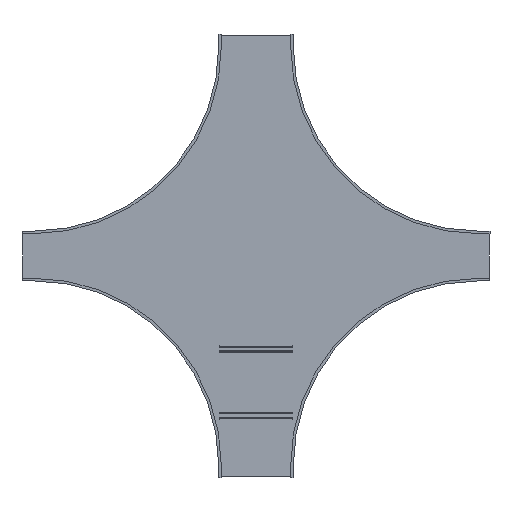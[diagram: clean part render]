
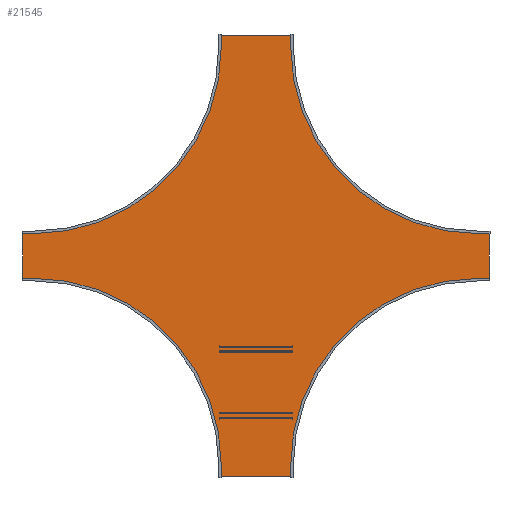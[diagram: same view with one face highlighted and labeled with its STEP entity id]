
A CAD part, front view. The second image highlights one B-rep face of the part: STEP entity #21545.
In plain terms, the highlighted planar face has unit normal (0, -1, 0).
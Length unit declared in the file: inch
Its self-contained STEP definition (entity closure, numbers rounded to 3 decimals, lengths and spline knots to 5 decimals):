
#21242=DIRECTION('',(0.,0.,1.));
#21243=VECTOR('',#21242,11.875);
#21244=CARTESIAN_POINT('',(-56.875,0.,-5.9375));
#21245=LINE('',#21244,#21243);
#21246=DIRECTION('',(1.,0.,0.));
#21247=VECTOR('',#21246,2.785);
#21248=CARTESIAN_POINT('',(-56.875,0.,5.9375));
#21249=LINE('',#21248,#21247);
#21250=CARTESIAN_POINT('',(-54.09,0.,51.09));
#21251=DIRECTION('',(0.,-1.,0.));
#21252=DIRECTION('',(0.,0.,-1.));
#21253=AXIS2_PLACEMENT_3D('',#21250,#21251,#21252);
#21255=DIRECTION('',(0.,0.,1.));
#21256=VECTOR('',#21255,2.785);
#21257=CARTESIAN_POINT('',(-8.9375,0.,51.09));
#21258=LINE('',#21257,#21256);
#21259=DIRECTION('',(1.,0.,0.));
#21260=VECTOR('',#21259,17.875);
#21261=CARTESIAN_POINT('',(-8.9375,0.,53.875));
#21262=LINE('',#21261,#21260);
#21263=DIRECTION('',(0.,0.,-1.));
#21264=VECTOR('',#21263,2.785);
#21265=CARTESIAN_POINT('',(8.9375,0.,53.875));
#21266=LINE('',#21265,#21264);
#21267=CARTESIAN_POINT('',(54.09,0.,51.09));
#21268=DIRECTION('',(0.,-1.,0.));
#21269=DIRECTION('',(-1.,0.,0.));
#21270=AXIS2_PLACEMENT_3D('',#21267,#21268,#21269);
#21272=DIRECTION('',(1.,0.,0.));
#21273=VECTOR('',#21272,2.785);
#21274=CARTESIAN_POINT('',(54.09,0.,5.9375));
#21275=LINE('',#21274,#21273);
#21276=DIRECTION('',(0.,0.,-1.));
#21277=VECTOR('',#21276,11.875);
#21278=CARTESIAN_POINT('',(56.875,0.,5.9375));
#21279=LINE('',#21278,#21277);
#21280=DIRECTION('',(-1.,0.,0.));
#21281=VECTOR('',#21280,2.785);
#21282=CARTESIAN_POINT('',(56.875,0.,-5.9375));
#21283=LINE('',#21282,#21281);
#21284=CARTESIAN_POINT('',(54.09,0.,-51.09));
#21285=DIRECTION('',(0.,-1.,0.));
#21286=DIRECTION('',(0.,0.,1.));
#21287=AXIS2_PLACEMENT_3D('',#21284,#21285,#21286);
#21289=DIRECTION('',(0.,0.,-1.));
#21290=VECTOR('',#21289,2.785);
#21291=CARTESIAN_POINT('',(8.9375,0.,-51.09));
#21292=LINE('',#21291,#21290);
#21293=DIRECTION('',(-1.,0.,0.));
#21294=VECTOR('',#21293,17.875);
#21295=CARTESIAN_POINT('',(8.9375,0.,-53.875));
#21296=LINE('',#21295,#21294);
#21297=DIRECTION('',(0.,0.,1.));
#21298=VECTOR('',#21297,2.785);
#21299=CARTESIAN_POINT('',(-8.9375,0.,-53.875));
#21300=LINE('',#21299,#21298);
#21301=CARTESIAN_POINT('',(-54.09,0.,-51.09));
#21302=DIRECTION('',(0.,-1.,0.));
#21303=DIRECTION('',(1.,0.,0.));
#21304=AXIS2_PLACEMENT_3D('',#21301,#21302,#21303);
#21306=DIRECTION('',(-1.,0.,0.));
#21307=VECTOR('',#21306,2.785);
#21308=CARTESIAN_POINT('',(-54.09,0.,-5.9375));
#21309=LINE('',#21308,#21307);
#21442=CARTESIAN_POINT('',(-56.875,0.,-5.9375));
#21443=CARTESIAN_POINT('',(-56.875,0.,5.9375));
#21444=VERTEX_POINT('',#21442);
#21445=VERTEX_POINT('',#21443);
#21446=CARTESIAN_POINT('',(-54.09,0.,5.9375));
#21447=VERTEX_POINT('',#21446);
#21448=CARTESIAN_POINT('',(-8.9375,0.,51.09));
#21449=VERTEX_POINT('',#21448);
#21450=CARTESIAN_POINT('',(-8.9375,0.,53.875));
#21451=VERTEX_POINT('',#21450);
#21452=CARTESIAN_POINT('',(8.9375,0.,53.875));
#21453=VERTEX_POINT('',#21452);
#21454=CARTESIAN_POINT('',(8.9375,0.,51.09));
#21455=VERTEX_POINT('',#21454);
#21456=CARTESIAN_POINT('',(54.09,0.,5.9375));
#21457=VERTEX_POINT('',#21456);
#21458=CARTESIAN_POINT('',(56.875,0.,5.9375));
#21459=VERTEX_POINT('',#21458);
#21460=CARTESIAN_POINT('',(56.875,0.,-5.9375));
#21461=VERTEX_POINT('',#21460);
#21462=CARTESIAN_POINT('',(54.09,0.,-5.9375));
#21463=VERTEX_POINT('',#21462);
#21464=CARTESIAN_POINT('',(8.9375,0.,-51.09));
#21465=VERTEX_POINT('',#21464);
#21466=CARTESIAN_POINT('',(8.9375,0.,-53.875));
#21467=VERTEX_POINT('',#21466);
#21468=CARTESIAN_POINT('',(-8.9375,0.,-53.875));
#21469=VERTEX_POINT('',#21468);
#21470=CARTESIAN_POINT('',(-8.9375,0.,-51.09));
#21471=VERTEX_POINT('',#21470);
#21472=CARTESIAN_POINT('',(-54.09,0.,-5.9375));
#21473=VERTEX_POINT('',#21472);
#21506=CARTESIAN_POINT('',(0.,0.,0.));
#21507=DIRECTION('',(0.,1.,0.));
#21508=DIRECTION('',(1.,0.,0.));
#21509=AXIS2_PLACEMENT_3D('',#21506,#21507,#21508);
#21510=PLANE('',#21509);
#21512=ORIENTED_EDGE('',*,*,#21511,.T.);
#21514=ORIENTED_EDGE('',*,*,#21513,.T.);
#21516=ORIENTED_EDGE('',*,*,#21515,.T.);
#21518=ORIENTED_EDGE('',*,*,#21517,.T.);
#21520=ORIENTED_EDGE('',*,*,#21519,.T.);
#21522=ORIENTED_EDGE('',*,*,#21521,.T.);
#21524=ORIENTED_EDGE('',*,*,#21523,.T.);
#21526=ORIENTED_EDGE('',*,*,#21525,.T.);
#21528=ORIENTED_EDGE('',*,*,#21527,.T.);
#21530=ORIENTED_EDGE('',*,*,#21529,.T.);
#21532=ORIENTED_EDGE('',*,*,#21531,.T.);
#21534=ORIENTED_EDGE('',*,*,#21533,.T.);
#21536=ORIENTED_EDGE('',*,*,#21535,.T.);
#21538=ORIENTED_EDGE('',*,*,#21537,.T.);
#21540=ORIENTED_EDGE('',*,*,#21539,.T.);
#21542=ORIENTED_EDGE('',*,*,#21541,.T.);
#21543=EDGE_LOOP('',(#21512,#21514,#21516,#21518,#21520,#21522,#21524,#21526,
#21528,#21530,#21532,#21534,#21536,#21538,#21540,#21542));
#21544=FACE_OUTER_BOUND('',#21543,.F.);
#21545=ADVANCED_FACE('',(#21544),#21510,.F.);
#21254=CIRCLE('',#21253,45.1525);
#21271=CIRCLE('',#21270,45.1525);
#21288=CIRCLE('',#21287,45.1525);
#21305=CIRCLE('',#21304,45.1525);
#21511=EDGE_CURVE('',#21444,#21445,#21245,.T.);
#21513=EDGE_CURVE('',#21445,#21447,#21249,.T.);
#21515=EDGE_CURVE('',#21447,#21449,#21254,.T.);
#21517=EDGE_CURVE('',#21449,#21451,#21258,.T.);
#21519=EDGE_CURVE('',#21451,#21453,#21262,.T.);
#21521=EDGE_CURVE('',#21453,#21455,#21266,.T.);
#21523=EDGE_CURVE('',#21455,#21457,#21271,.T.);
#21525=EDGE_CURVE('',#21457,#21459,#21275,.T.);
#21527=EDGE_CURVE('',#21459,#21461,#21279,.T.);
#21529=EDGE_CURVE('',#21461,#21463,#21283,.T.);
#21531=EDGE_CURVE('',#21463,#21465,#21288,.T.);
#21533=EDGE_CURVE('',#21465,#21467,#21292,.T.);
#21535=EDGE_CURVE('',#21467,#21469,#21296,.T.);
#21537=EDGE_CURVE('',#21469,#21471,#21300,.T.);
#21539=EDGE_CURVE('',#21471,#21473,#21305,.T.);
#21541=EDGE_CURVE('',#21473,#21444,#21309,.T.);
